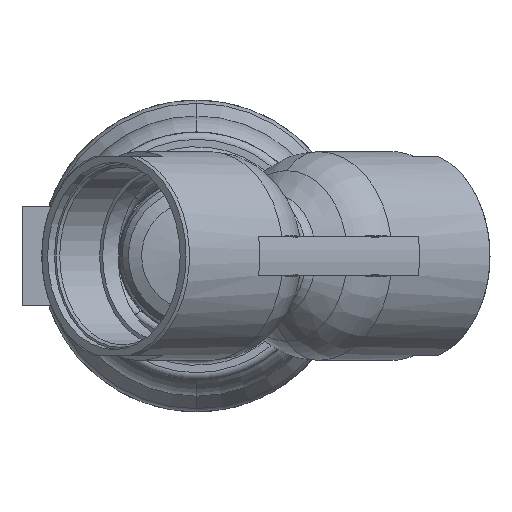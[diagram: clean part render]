
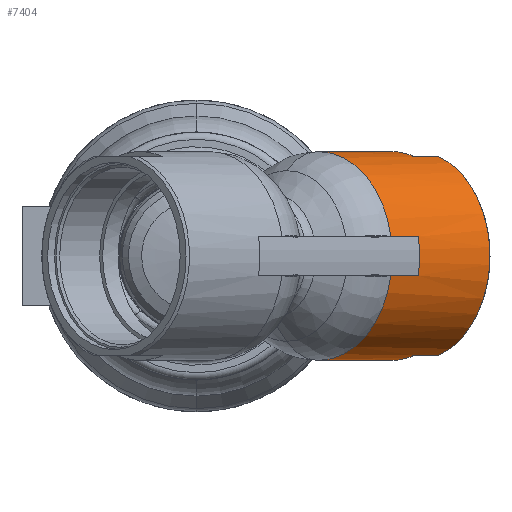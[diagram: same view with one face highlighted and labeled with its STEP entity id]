
A CAD part, front view. The second image highlights one B-rep face of the part: STEP entity #7404.
In plain terms, the highlighted cylindrical face has radius 42.5 mm (diameter 85 mm), a partial arc.
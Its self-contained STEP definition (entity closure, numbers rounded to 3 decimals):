
#86 = CARTESIAN_POINT ( 'NONE',  ( 88.66, 48.939, 40.5 ) ) ;
#165 = DIRECTION ( 'NONE',  ( 0.707, 0.707, 0. ) ) ;
#238 = CIRCLE ( 'NONE', #2088, 42.5 ) ;
#256 = AXIS2_PLACEMENT_3D ( 'NONE', #7440, #9295, #923 ) ;
#299 = CARTESIAN_POINT ( 'NONE',  ( 98.559, 58.839, 40.5 ) ) ;
#310 = DIRECTION ( 'NONE',  ( 0., 0., 1. ) ) ;
#417 = DIRECTION ( 'NONE',  ( -0.707, -0.707, 0. ) ) ;
#841 = CARTESIAN_POINT ( 'NONE',  ( 99.267, 59.546, 40.5 ) ) ;
#923 = DIRECTION ( 'NONE',  ( 0., 0., -1. ) ) ;
#1081 = VERTEX_POINT ( 'NONE', #3470 ) ;
#1301 = ORIENTED_EDGE ( 'NONE', *, *, #3908, .F. ) ;
#1318 = DIRECTION ( 'NONE',  ( -0.707, -0.707, 0. ) ) ;
#1413 = CARTESIAN_POINT ( 'NONE',  ( 90.338, 9.784, -7.908 ) ) ;
#1435 = VERTEX_POINT ( 'NONE', #4218 ) ;
#1694 = CARTESIAN_POINT ( 'NONE',  ( 79.55, 58.05, 0. ) ) ;
#1797 = EDGE_CURVE ( 'NONE', #9131, #7026, #2880, .T. ) ;
#1811 = EDGE_CURVE ( 'NONE', #10154, #9431, #5617, .T. ) ;
#1924 = DIRECTION ( 'NONE',  ( 0.707, 0.707, 0. ) ) ;
#2004 = CARTESIAN_POINT ( 'NONE',  ( 99.267, 59.546, -40.5 ) ) ;
#2009 = LINE ( 'NONE', #10040, #6096 ) ;
#2088 = AXIS2_PLACEMENT_3D ( 'NONE', #7159, #1924, #8017 ) ;
#2343 = CARTESIAN_POINT ( 'NONE',  ( 79.184, -1.37, -7.908 ) ) ;
#2401 = VERTEX_POINT ( 'NONE', #299 ) ;
#2473 = DIRECTION ( 'NONE',  ( 0.707, 0.707, 0. ) ) ;
#2527 = CARTESIAN_POINT ( 'NONE',  ( 49.657, 28.157, -42.5 ) ) ;
#2758 = ORIENTED_EDGE ( 'NONE', *, *, #9081, .T. ) ;
#2797 = CIRCLE ( 'NONE', #256, 42.5 ) ;
#2880 = LINE ( 'NONE', #3574, #3949 ) ;
#2970 = AXIS2_PLACEMENT_3D ( 'NONE', #10699, #5506, #310 ) ;
#3059 = DIRECTION ( 'NONE',  ( 0., 0., -1. ) ) ;
#3071 = ORIENTED_EDGE ( 'NONE', *, *, #10102, .F. ) ;
#3329 = LINE ( 'NONE', #9595, #11094 ) ;
#3470 = CARTESIAN_POINT ( 'NONE',  ( 79.55, 58.05, -42.5 ) ) ;
#3532 = CARTESIAN_POINT ( 'NONE',  ( 98.559, 58.839, -40.5 ) ) ;
#3574 = CARTESIAN_POINT ( 'NONE',  ( 119.683, 39.129, 7.908 ) ) ;
#3637 = DIRECTION ( 'NONE',  ( 0., 0., 1. ) ) ;
#3813 = VECTOR ( 'NONE', #8517, 1000. ) ;
#3834 = CIRCLE ( 'NONE', #6358, 42.5 ) ;
#3908 = EDGE_CURVE ( 'NONE', #1081, #6238, #3329, .T. ) ;
#3949 = VECTOR ( 'NONE', #2473, 1000. ) ;
#4127 = VECTOR ( 'NONE', #6986, 1000. ) ;
#4165 = CIRCLE ( 'NONE', #7256, 42.5 ) ;
#4218 = CARTESIAN_POINT ( 'NONE',  ( 79.55, 58.05, 42.5 ) ) ;
#4316 = CARTESIAN_POINT ( 'NONE',  ( 49.657, 28.157, 0. ) ) ;
#4488 = VERTEX_POINT ( 'NONE', #6907 ) ;
#4777 = VERTEX_POINT ( 'NONE', #1413 ) ;
#5170 = EDGE_CURVE ( 'NONE', #4777, #7026, #3834, .T. ) ;
#5310 = EDGE_CURVE ( 'NONE', #4488, #9131, #7705, .T. ) ;
#5506 = DIRECTION ( 'NONE',  ( 0.707, 0.707, 0. ) ) ;
#5617 = LINE ( 'NONE', #2004, #3813 ) ;
#5692 = CARTESIAN_POINT ( 'NONE',  ( 90.338, 9.784, 7.908 ) ) ;
#5826 = DIRECTION ( 'NONE',  ( -0.707, -0.707, 0. ) ) ;
#5861 = ORIENTED_EDGE ( 'NONE', *, *, #7806, .T. ) ;
#5912 = AXIS2_PLACEMENT_3D ( 'NONE', #4316, #10133, #8631 ) ;
#5914 = EDGE_CURVE ( 'NONE', #1435, #9394, #4165, .T. ) ;
#6096 = VECTOR ( 'NONE', #1318, 1000. ) ;
#6238 = VERTEX_POINT ( 'NONE', #2527 ) ;
#6268 = ORIENTED_EDGE ( 'NONE', *, *, #8264, .T. ) ;
#6358 = AXIS2_PLACEMENT_3D ( 'NONE', #10371, #417, #7225 ) ;
#6402 = LINE ( 'NONE', #841, #10703 ) ;
#6907 = CARTESIAN_POINT ( 'NONE',  ( 49.657, 28.157, 42.5 ) ) ;
#6986 = DIRECTION ( 'NONE',  ( -0.707, -0.707, 0. ) ) ;
#7026 = VERTEX_POINT ( 'NONE', #5692 ) ;
#7159 = CARTESIAN_POINT ( 'NONE',  ( 79.55, 58.05, 0. ) ) ;
#7225 = DIRECTION ( 'NONE',  ( 0.707, -0.707, 0. ) ) ;
#7256 = AXIS2_PLACEMENT_3D ( 'NONE', #1694, #165, #3059 ) ;
#7257 = EDGE_LOOP ( 'NONE', ( #1301, #3071, #10716, #5861, #8426, #9751, #2758, #8728, #7682, #7494, #7653, #6268 ) ) ;
#7331 = CYLINDRICAL_SURFACE ( 'NONE', #8412, 42.5 ) ;
#7404 = ADVANCED_FACE ( 'NONE', ( #9635 ), #7331, .T. ) ;
#7440 = CARTESIAN_POINT ( 'NONE',  ( 89.449, 67.949, 0. ) ) ;
#7494 = ORIENTED_EDGE ( 'NONE', *, *, #5170, .F. ) ;
#7653 = ORIENTED_EDGE ( 'NONE', *, *, #10648, .T. ) ;
#7682 = ORIENTED_EDGE ( 'NONE', *, *, #1797, .T. ) ;
#7705 = CIRCLE ( 'NONE', #5912, 42.5 ) ;
#7806 = EDGE_CURVE ( 'NONE', #9431, #2401, #2797, .T. ) ;
#7817 = DIRECTION ( 'NONE',  ( -0.707, -0.707, 0. ) ) ;
#8017 = DIRECTION ( 'NONE',  ( 0., 0., -1. ) ) ;
#8101 = VERTEX_POINT ( 'NONE', #2343 ) ;
#8203 = EDGE_CURVE ( 'NONE', #2401, #9394, #6402, .T. ) ;
#8264 = EDGE_CURVE ( 'NONE', #8101, #6238, #10449, .T. ) ;
#8412 = AXIS2_PLACEMENT_3D ( 'NONE', #10512, #9647, #3637 ) ;
#8426 = ORIENTED_EDGE ( 'NONE', *, *, #8203, .T. ) ;
#8517 = DIRECTION ( 'NONE',  ( 0.707, 0.707, 0. ) ) ;
#8631 = DIRECTION ( 'NONE',  ( 0., 0., 1. ) ) ;
#8728 = ORIENTED_EDGE ( 'NONE', *, *, #5310, .T. ) ;
#9081 = EDGE_CURVE ( 'NONE', #1435, #4488, #2009, .T. ) ;
#9131 = VERTEX_POINT ( 'NONE', #10952 ) ;
#9295 = DIRECTION ( 'NONE',  ( -0.707, -0.707, 0. ) ) ;
#9394 = VERTEX_POINT ( 'NONE', #86 ) ;
#9431 = VERTEX_POINT ( 'NONE', #3532 ) ;
#9595 = CARTESIAN_POINT ( 'NONE',  ( 90.156, 68.656, -42.5 ) ) ;
#9635 = FACE_OUTER_BOUND ( 'NONE', #7257, .T. ) ;
#9647 = DIRECTION ( 'NONE',  ( -0.707, -0.707, 0. ) ) ;
#9751 = ORIENTED_EDGE ( 'NONE', *, *, #5914, .F. ) ;
#10040 = CARTESIAN_POINT ( 'NONE',  ( 90.156, 68.656, 42.5 ) ) ;
#10102 = EDGE_CURVE ( 'NONE', #10154, #1081, #238, .T. ) ;
#10133 = DIRECTION ( 'NONE',  ( 0.707, 0.707, 0. ) ) ;
#10154 = VERTEX_POINT ( 'NONE', #10673 ) ;
#10371 = CARTESIAN_POINT ( 'NONE',  ( 60.811, 39.311, 0. ) ) ;
#10449 = CIRCLE ( 'NONE', #2970, 42.5 ) ;
#10512 = CARTESIAN_POINT ( 'NONE',  ( 90.156, 68.656, 0. ) ) ;
#10648 = EDGE_CURVE ( 'NONE', #4777, #8101, #11072, .T. ) ;
#10673 = CARTESIAN_POINT ( 'NONE',  ( 88.66, 48.939, -40.5 ) ) ;
#10699 = CARTESIAN_POINT ( 'NONE',  ( 49.657, 28.157, 0. ) ) ;
#10703 = VECTOR ( 'NONE', #7817, 1000. ) ;
#10716 = ORIENTED_EDGE ( 'NONE', *, *, #1811, .T. ) ;
#10952 = CARTESIAN_POINT ( 'NONE',  ( 79.184, -1.37, 7.908 ) ) ;
#11072 = LINE ( 'NONE', #11253, #4127 ) ;
#11094 = VECTOR ( 'NONE', #5826, 1000. ) ;
#11253 = CARTESIAN_POINT ( 'NONE',  ( 119.683, 39.129, -7.908 ) ) ;
